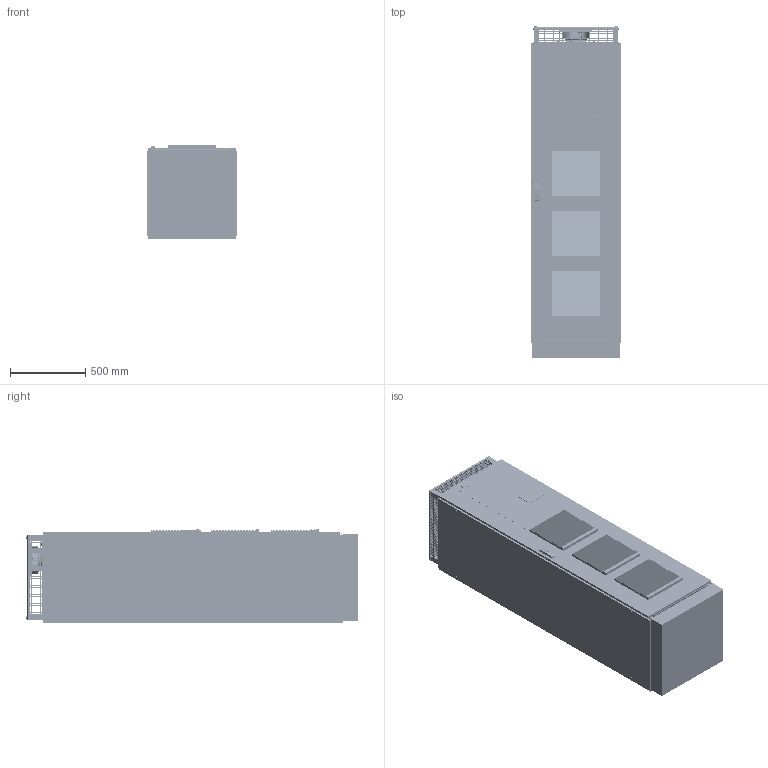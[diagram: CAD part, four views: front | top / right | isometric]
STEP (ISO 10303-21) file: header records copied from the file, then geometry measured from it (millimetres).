
FILE_DESCRIPTION((''),'2;1');
FILE_NAME('MARKETING_ASM','2010-03-03T',('breuilhp'),(''),'PRO/ENGINEER BY PARAMETRIC TECHNOLOGY CORPORATION, 2009460','PRO/ENGINEER BY PARAMETRIC TECHNOLOGY CORPORATION, 2009460','');
FILE_SCHEMA(('CONFIG_CONTROL_DESIGN'));
Products named in the file (39): SOCLE_600X600; CADRE_600X600; POTEAU_2000; TS8_CHASSIS_2000X600X600_ASM; 28-0-00001-44; PORTE_TS8_2000X600_AF0; 8XXX_00_21; 8XXX_00_25; 28-0-00006-44_ASM; 28-A-21048-40; RONDELLE_27X12; PANNEAU_AR_2000X600; PANNEAU_LATTERAL_2000X600; SK3326207; IHM; 28-5-21031-40; M6X15; M4X10; 28-5-21031-40_ASM; 28-0-00015-40; RIVET_POP_D4; 28-0-00016-26_ASM; 16043-A; 28-0-00016-40; 19008; WAGO_261-104; ECOFIT_D27-A2; M8; M4; 28-0-10001-60; 91902; M6; VIS004VS033; 28-5-21013-26_ASM; VISH_M12X30; ARMOIRE_PRINCIPALE_MARKETING_ASM; SOCLE_MARKETING_600X600; ETIQUETTE_LEROY; MARKETING_ASM
Assembly tree (77 placements, depth 6):
  MARKETING_ASM
    ARMOIRE_PRINCIPALE_MARKETING_ASM
      TS8_CHASSIS_2000X600X600_ASM
        SOCLE_600X600
        CADRE_600X600  x2
        POTEAU_2000  x4
      28-0-00001-44
      28-0-00006-44_ASM
        PORTE_TS8_2000X600_AF0
        8XXX_00_21  x4
        8XXX_00_25
      28-A-21048-40
      RONDELLE_27X12  x4
      PANNEAU_AR_2000X600
      PANNEAU_LATTERAL_2000X600  x2
      SK3326207  x3
      IHM
      28-5-21013-26_ASM
        28-0-00016-26_ASM
          28-5-21031-40_ASM
            28-5-21031-40
            M6X15  x11
            M4X10  x4
          28-0-00015-40
          RIVET_POP_D4  x2
        16043-A
        28-0-00016-40
        19008
        WAGO_261-104
        ECOFIT_D27-A2
        M8
        M4  x4
        28-0-10001-60
        91902
        M6  x4
        VIS004VS033  x4
      VISH_M12X30  x4
    SOCLE_MARKETING_600X600
    ETIQUETTE_LEROY
Bounding box: 606 x 2212.3 x 622.5 mm (x, y, z)
Volume: 60228242.3 mm3; surface area: 17237578.5 mm2
Topology: 76 solids, 95 shells, 18729 faces, 46087 edges, 27688 vertices
Faces by surface type: plane 11383, cylinder 6627, cone 311, extrusion 189, torus 175, bspline 30, sphere 12, revolution 2
Entity records: 364605 total; most frequent: CARTESIAN_POINT 82629, ORIENTED_EDGE 58994, DIRECTION 53974, EDGE_CURVE 29554, VECTOR 23220, LINE 23031, VERTEX_POINT 18844, AXIS2_PLACEMENT_3D 15376
